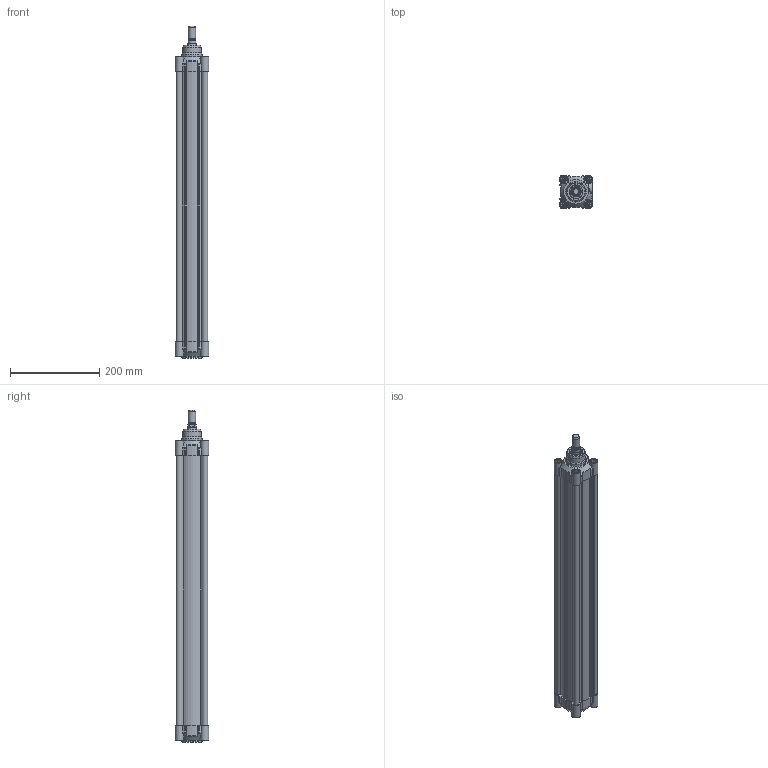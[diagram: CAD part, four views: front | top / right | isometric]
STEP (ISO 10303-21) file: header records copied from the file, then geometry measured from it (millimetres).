
FILE_DESCRIPTION(/* description */ ('CILINDRO D.E. MAGNETICO AMMORTIZZATO ISO 15552'),/* implementation_level */ '2;1');
FILE_NAME(/* name */ 'T:\Archivio Inventor\- 00 NUOVI STP PER SITO CON STELO CHE SI MUOVE\SERIE H - U\SERIE HDM\HDM063 - TUBO NUOVO\HDM063.550.GS.M.stp',/* time_stamp */ '2018-07-30T14:41:29+02:00',/* author */ ('carlo.corazza'),/* organization */ (''),/* preprocessor_version */ 'ST-DEVELOPER v16.5',/* originating_system */ 'Autodesk Inventor 2017',/* authorisation */ '');
FILE_SCHEMA (('AUTOMOTIVE_DESIGN { 1 0 10303 214 3 1 1 }'));
Length unit declared in the file: millimetre
Products named in the file (5): HDM063.550.GS.M; TP; TA; STELO-550; CORPO-550
Assembly tree (4 placements, depth 2):
  HDM063.550.GS.M
    TP
    TA
    STELO-550
    CORPO-550
Bounding box: 75 x 75 x 744 mm (x, y, z)
Volume: 1035865.9 mm3; surface area: 550173.3 mm2
Topology: 4 solids, 27 shells, 1241 faces, 2936 edges, 1818 vertices
Faces by surface type: plane 368, cylinder 297, bspline 288, torus 108, cone 106, sphere 74
Full cylindrical faces by diameter (mm): 3 x2, 3.4 x2, 4.8 x2, 5.25 x2, 6.647 x8, 8 x8, 8.3 x12, 9.8 x4, 9.9 x2, 10 x6, 12 x3, 13 x8, 13.3 x8, 13.5 x1, 14.95 x2, 16 x1, 19.5 x1, 20 x1, 20.8 x1, 20.847 x1, 24 x1, 26 x2, 30 x3, 42 x1, 45 x2, 63 x1
Entity records: 40768 total; most frequent: CARTESIAN_POINT 13071, ORIENTED_EDGE 5326, DIRECTION 5100, EDGE_CURVE 2663, AXIS2_PLACEMENT_3D 2037, VERTEX_POINT 1763, EDGE_LOOP 1576, STYLED_ITEM 1245
